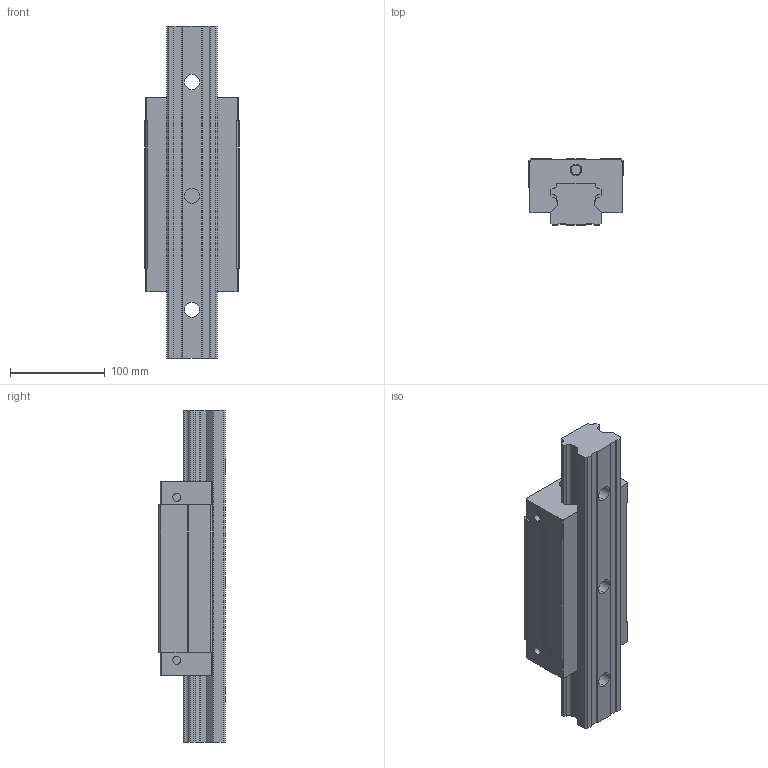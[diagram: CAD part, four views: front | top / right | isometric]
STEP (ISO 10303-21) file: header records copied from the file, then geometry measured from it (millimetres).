
FILE_DESCRIPTION((''),'2;1');
FILE_NAME('HGL55HA_ASM','2008-07-11T',('immo'),(''),'PRO/ENGINEER BY PARAMETRIC TECHNOLOGY CORPORATION, 2004360','PRO/ENGINEER BY PARAMETRIC TECHNOLOGY CORPORATION, 2004360','');
FILE_SCHEMA(('CONFIG_CONTROL_DESIGN'));
Length unit declared in the file: millimetre
Products named in the file (6): HG55_RAIL_3; MANIFOLD_SOLID_BREP_75125; HG55BLOCK_1_ASM_ASM; HG55_ASM_ASM_111_ASM_ASM; HG55H_ASM_ASM; HGL55HA_ASM
Assembly tree (5 placements, depth 5):
  HGL55HA_ASM
    HG55H_ASM_ASM
      HG55_ASM_ASM_111_ASM_ASM
        HG55_RAIL_3
        HG55BLOCK_1_ASM_ASM
          MANIFOLD_SOLID_BREP_75125
Bounding box: 100 x 70 x 350 mm (x, y, z)
Volume: 1512469.9 mm3; surface area: 173526.4 mm2
Topology: 2 solids, 2 shells, 199 faces, 544 edges, 364 vertices
Faces by surface type: plane 143, cylinder 56
Entity records: 6498 total; most frequent: CARTESIAN_POINT 1122, DIRECTION 1104, ORIENTED_EDGE 1088, EDGE_CURVE 544, VECTOR 412, LINE 412, VERTEX_POINT 364, AXIS2_PLACEMENT_3D 346
